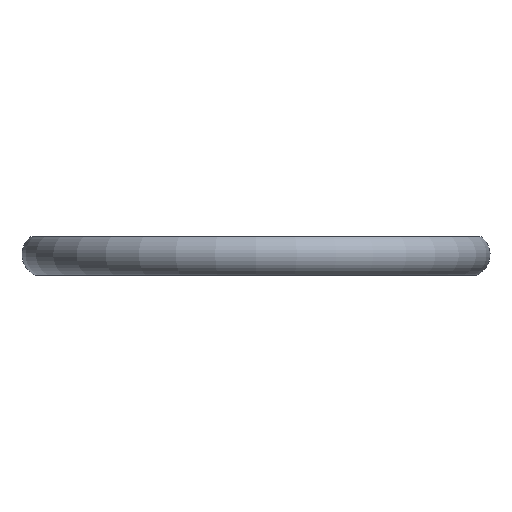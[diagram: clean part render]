
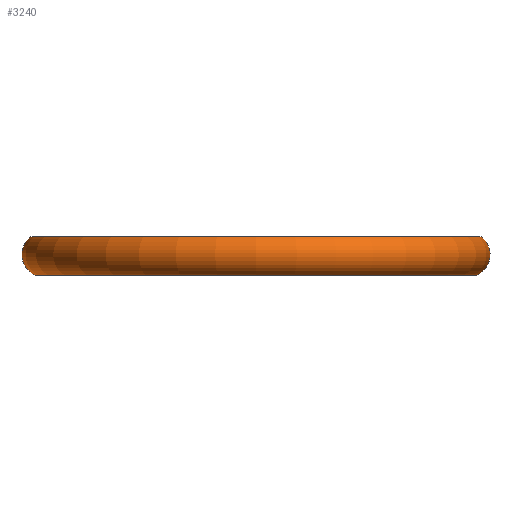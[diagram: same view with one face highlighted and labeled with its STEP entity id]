
A CAD part, front view. The second image highlights one B-rep face of the part: STEP entity #3240.
In plain terms, the highlighted toroidal (fillet/blend) face has major radius 38.047 mm and minor radius 4.072 mm.
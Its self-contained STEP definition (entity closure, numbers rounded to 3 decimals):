
#20=TOROIDAL_SURFACE('',#3476,38.047,4.072);
#45=CIRCLE('',#3474,40.5);
#46=CIRCLE('',#3475,40.5);
#47=CIRCLE('',#3477,39.633);
#48=CIRCLE('',#3478,39.633);
#49=CIRCLE('',#3479,4.072);
#377=FACE_OUTER_BOUND('',#627,.T.);
#627=EDGE_LOOP('',(#2867,#2868,#2869,#2870,#2871,#2872));
#1632=VERTEX_POINT('',#5567);
#1633=VERTEX_POINT('',#5568);
#1634=VERTEX_POINT('',#5572);
#1635=VERTEX_POINT('',#5573);
#2052=EDGE_CURVE('',#1632,#1633,#45,.T.);
#2053=EDGE_CURVE('',#1633,#1632,#46,.T.);
#2054=EDGE_CURVE('',#1634,#1635,#47,.T.);
#2055=EDGE_CURVE('',#1635,#1634,#48,.T.);
#2056=EDGE_CURVE('',#1635,#1633,#49,.T.);
#2867=ORIENTED_EDGE('',*,*,#2054,.F.);
#2868=ORIENTED_EDGE('',*,*,#2055,.F.);
#2869=ORIENTED_EDGE('',*,*,#2056,.T.);
#2870=ORIENTED_EDGE('',*,*,#2053,.T.);
#2871=ORIENTED_EDGE('',*,*,#2052,.T.);
#2872=ORIENTED_EDGE('',*,*,#2056,.F.);
#3240=ADVANCED_FACE('',(#377),#20,.T.);
#3474=AXIS2_PLACEMENT_3D('',#5569,#4245,#4246);
#3475=AXIS2_PLACEMENT_3D('',#5570,#4247,#4248);
#3476=AXIS2_PLACEMENT_3D('',#5571,#4249,#4250);
#3477=AXIS2_PLACEMENT_3D('',#5574,#4251,#4252);
#3478=AXIS2_PLACEMENT_3D('',#5575,#4253,#4254);
#3479=AXIS2_PLACEMENT_3D('',#5576,#4255,#4256);
#4245=DIRECTION('center_axis',(0.,0.,
-1.));
#4246=DIRECTION('ref_axis',(-1.,0.,0.));
#4247=DIRECTION('center_axis',(0.,0.,
-1.));
#4248=DIRECTION('ref_axis',(-1.,0.,0.));
#4249=DIRECTION('center_axis',(0.,0.,
-1.));
#4250=DIRECTION('ref_axis',(-1.,0.,0.));
#4251=DIRECTION('center_axis',(0.,0.,
-1.));
#4252=DIRECTION('ref_axis',(-1.,0.,0.));
#4253=DIRECTION('center_axis',(0.,0.,
-1.));
#4254=DIRECTION('ref_axis',(-1.,0.,0.));
#4255=DIRECTION('center_axis',(0.,-1.,0.));
#4256=DIRECTION('ref_axis',(1.,0.,0.));
#5567=CARTESIAN_POINT('',(1.5,-40.5,8.5));
#5568=CARTESIAN_POINT('',(42.,0.,8.5));
#5569=CARTESIAN_POINT('Origin',(1.5,0.,8.5));
#5570=CARTESIAN_POINT('Origin',(1.5,0.,8.5));
#5571=CARTESIAN_POINT('Origin',(1.5,0.,5.25));
#5572=CARTESIAN_POINT('',(1.5,-39.633,1.5));
#5573=CARTESIAN_POINT('',(41.133,0.,1.5));
#5574=CARTESIAN_POINT('Origin',(1.5,0.,1.5));
#5575=CARTESIAN_POINT('Origin',(1.5,0.,1.5));
#5576=CARTESIAN_POINT('Origin',(39.547,0.,5.25));
